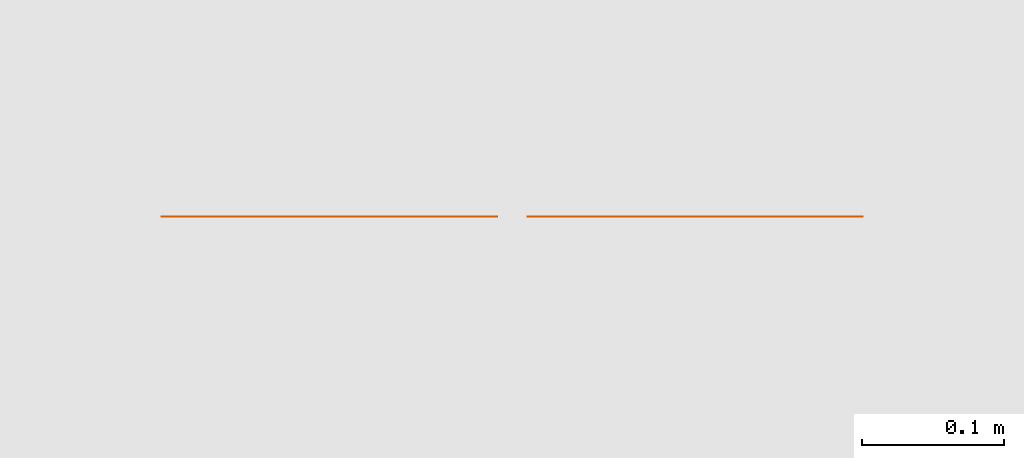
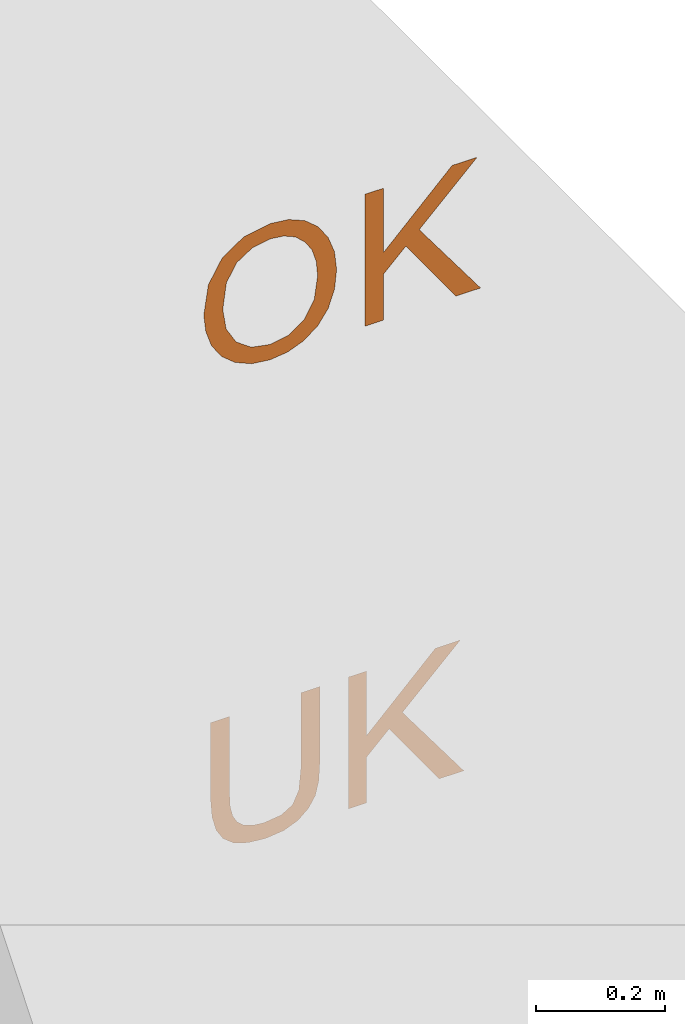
# One storey, part 3 of 3: 2 proxies, 2 elements without a shape of their own.
"""IFC4 building model written with IfcOpenShell, lengths in metres."""

from ifc_helpers import new_model, entity, si_unit, converted_unit, derived_unit, frame, origin, origin_with_axes, place, context, subcontext, project, spatial, open_shell, surface_model, source, transform, mapped, element, aggregate, save


model = new_model("IFC4")

# Units and contexts
model_context = context("Model", 3, precision=1e-05, world=origin())
body_context = subcontext(model_context, "Body", "Model", "MODEL_VIEW")
ifc_project = project(units=[si_unit("LENGTHUNIT", "METRE"), si_unit("AREAUNIT", "SQUARE_METRE"), si_unit("VOLUMEUNIT", "CUBIC_METRE"), si_unit("MASSUNIT", "GRAM", prefix="KILO"), converted_unit("PLANEANGLEUNIT", "DEGREE", entity("IfcPlaneAngleMeasure", 0.0174532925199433), si_unit("PLANEANGLEUNIT", "RADIAN"), dimensions=[0, 0, 0, 0, 0, 0, 0]), derived_unit("THERMALTRANSMITTANCEUNIT", [(si_unit("POWERUNIT", "WATT"), 1), (si_unit("THERMODYNAMICTEMPERATUREUNIT", "KELVIN"), -1), (si_unit("LENGTHUNIT", "METRE"), -2)]), derived_unit("VOLUMETRICFLOWRATEUNIT", [(si_unit("LENGTHUNIT", "METRE"), 3), (converted_unit("TIMEUNIT", "hour", entity("IfcTimeMeasure", 3600.0), si_unit("TIMEUNIT", "SECOND"), dimensions=[0, 0, 1, 0, 0, 0, 0]), -1), (si_unit("LENGTHUNIT", "METRE"), -1)])], contexts=[model_context])

# Site, building, storey
site_placement = place(None, origin())
site = spatial("IfcSite", under=ifc_project, at=site_placement, Name="Liegenschaft", CompositionType="ELEMENT")
building_placement = place(site_placement, origin())
building = spatial("IfcBuilding", under=site, at=building_placement, Name="Gebäude", CompositionType="ELEMENT")
storey_placement = place(building_placement, origin())
storey = spatial("IfcBuildingStorey", under=building, at=storey_placement, Name="Geschoss 01", CompositionType="ELEMENT", Elevation=0.0)

# Assembly, proxy
assembly_1_placement = place(storey_placement, origin())
assembly_1 = element("IfcElementAssembly", 1, at=assembly_1_placement, inside=storey, Name="SpatialDim_Group", PredefinedType="NOTDEFINED")
shared_shape_1 = source(origin_with_axes(), body_context, "Body", "SurfaceModel", [
    surface_model("IfcShellBasedSurfaceModel", [(0.503895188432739, 0.492375, 0.0), (0.473145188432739, 0.482, 0.0), (0.446770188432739, 0.464, 0.0), (0.427145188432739, 0.44, 0.0), (0.414145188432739, 0.41, 0.0), (0.410145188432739, 0.377, 0.0), (0.413895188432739, 0.3455, 0.0), (0.425145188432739, 0.317, 0.0), (0.444770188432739, 0.291625, 0.0), (0.471145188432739, 0.273, 0.0), (0.503270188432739, 0.26175, 0.0), (0.539145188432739, 0.258, 0.0), (0.574395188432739, 0.26175, 0.0), (0.605145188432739, 0.273, 0.0), (0.632020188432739, 0.291, 0.0), (0.652145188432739, 0.315, 0.0), (0.664270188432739, 0.344125, 0.0), (0.668145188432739, 0.377, 0.0), (0.659270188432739, 0.424875, 0.0), (0.633145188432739, 0.463, 0.0), (0.591020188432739, 0.48775, 0.0), (0.536145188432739, 0.496, 0.0), (0.496020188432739, 0.456, 0.0), (0.535145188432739, 0.462, 0.0), (0.583395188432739, 0.4555, 0.0), (0.615145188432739, 0.437, 0.0), (0.633145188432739, 0.40925, 0.0), (0.639145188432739, 0.377, 0.0), (0.636145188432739, 0.353, 0.0), (0.627145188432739, 0.332, 0.0), (0.611520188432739, 0.31475, 0.0), (0.592145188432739, 0.302, 0.0), (0.567145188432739, 0.294375, 0.0), (0.539145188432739, 0.292, 0.0), (0.496520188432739, 0.298, 0.0), (0.465145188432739, 0.316, 0.0), (0.445395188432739, 0.3435, 0.0), (0.439145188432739, 0.377, 0.0), (0.445770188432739, 0.410875, 0.0), (0.465145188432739, 0.438, 0.0)], [open_shell([[[0, 1, 2, 3, 4, 5, 6, 7, 8, 9, 10, 11, 12, 13, 14, 15, 16, 17, 18, 19, 20, 21], [22, 23, 24, 25, 26, 27, 28, 29, 30, 31, 32, 33, 34, 35, 36, 37, 38, 39]]], orient=[[False, False]])]),
    surface_model("IfcShellBasedSurfaceModel", [(0.414145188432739, 0.207, 0.0), (0.414145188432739, 0.174, 0.0), (0.501145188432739, 0.174, 0.0), (0.540145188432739, 0.134, 0.0), (0.414145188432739, 0.044, 0.0), (0.414145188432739, 0.0, 0.0), (0.563145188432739, 0.11, 0.0), (0.664145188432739, 0.006, 0.0), (0.664145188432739, 0.051, 0.0), (0.542145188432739, 0.174, 0.0), (0.664145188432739, 0.174, 0.0), (0.664145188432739, 0.207, 0.0)], [open_shell([[[0, 1, 2, 3, 4, 5, 6, 7, 8, 9, 10, 11]]], orient=[[False]])]),
])
proxy_1_placement = place(assembly_1_placement, frame((270.779467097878, 1.78633560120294, 0.0), z_axis=(-1.22464679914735e-16, -1.0, 1.49975978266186e-32), x_axis=(1.22464679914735e-16, 0.0, 1.0)))
proxy_1 = element("IfcBuildingElementProxy", 2, at=proxy_1_placement, Name="macro", context=body_context, shape_type="MappedRepresentation", body=[
    mapped(shared_shape_1, transform((0.0, 0.0, 0.0), x_axis=(1.0, 0.0, 0.0), y_axis=(0.0, 1.0, 0.0), z_axis=(0.0, 0.0, 1.0), scale=1.0)),
])
aggregate(assembly_1, [proxy_1])

assembly_2_placement = place(storey_placement, origin())
assembly_2 = element("IfcElementAssembly", 3, at=assembly_2_placement, inside=storey, Name="SpatialDim_Group", PredefinedType="NOTDEFINED")
shared_shape_2 = source(origin_with_axes(), body_context, "Body", "SurfaceModel", [
    surface_model("IfcShellBasedSurfaceModel", [(0.26, 0.292, 0.0), (0.117, 0.292, 0.0), (0.077125, 0.29575, 0.0), (0.053, 0.307, 0.0), (0.040875, 0.32725, 0.0), (0.037, 0.358, 0.0), (0.039125, 0.3775, 0.0), (0.045, 0.394, 0.0), (0.0555, 0.40625, 0.0), (0.069, 0.414, 0.0), (0.0885, 0.4185, 0.0), (0.117, 0.42, 0.0), (0.26, 0.42, 0.0), (0.26, 0.454, 0.0), (0.116, 0.454, 0.0), (0.08, 0.45125, 0.0), (0.053, 0.444, 0.0), (0.0325, 0.4315, 0.0), (0.018, 0.413, 0.0), (0.00899999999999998, 0.386625, 0.0), (0.00599999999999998, 0.355, 0.0), (0.00962499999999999, 0.32225, 0.0), (0.02, 0.297, 0.0), (0.0365, 0.278125, 0.0), (0.056, 0.266, 0.0), (0.08225, 0.25975, 0.0), (0.116, 0.258, 0.0), (0.26, 0.258, 0.0)], [open_shell([[[0, 1, 2, 3, 4, 5, 6, 7, 8, 9, 10, 11, 12, 13, 14, 15, 16, 17, 18, 19, 20, 21, 22, 23, 24, 25, 26, 27]]], orient=[[False]])]),
    surface_model("IfcShellBasedSurfaceModel", [(0.01, 0.207, 0.0), (0.01, 0.174, 0.0), (0.097, 0.174, 0.0), (0.136, 0.134, 0.0), (0.01, 0.044, 0.0), (0.01, 0.0, 0.0), (0.159, 0.11, 0.0), (0.26, 0.006, 0.0), (0.26, 0.051, 0.0), (0.138, 0.174, 0.0), (0.26, 0.174, 0.0), (0.26, 0.207, 0.0)], [open_shell([[[0, 1, 2, 3, 4, 5, 6, 7, 8, 9, 10, 11]]], orient=[[False]])]),
])
proxy_2_placement = place(assembly_2_placement, frame((270.749467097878, 1.78633560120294, -0.500000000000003), z_axis=(-1.22464679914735e-16, -1.0, 1.49975978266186e-32), x_axis=(1.22464679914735e-16, 0.0, 1.0)))
proxy_2 = element("IfcBuildingElementProxy", 4, at=proxy_2_placement, Name="macro", context=body_context, shape_type="MappedRepresentation", body=[
    mapped(shared_shape_2, transform((0.0, 0.0, 0.0), x_axis=(1.0, 0.0, 0.0), y_axis=(0.0, 1.0, 0.0), z_axis=(0.0, 0.0, 1.0), scale=1.0)),
])
aggregate(assembly_2, [proxy_2])

save(model, "model.ifc")
